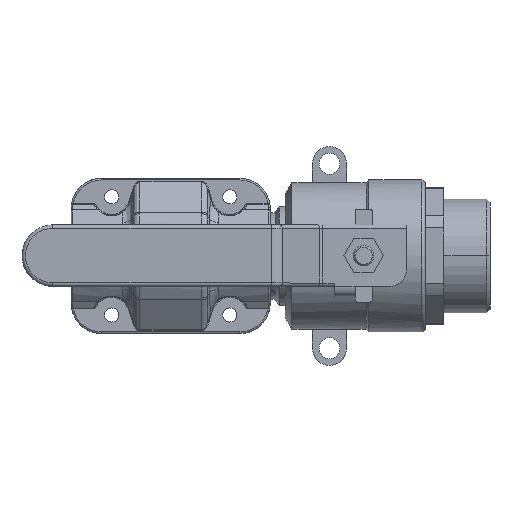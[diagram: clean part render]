
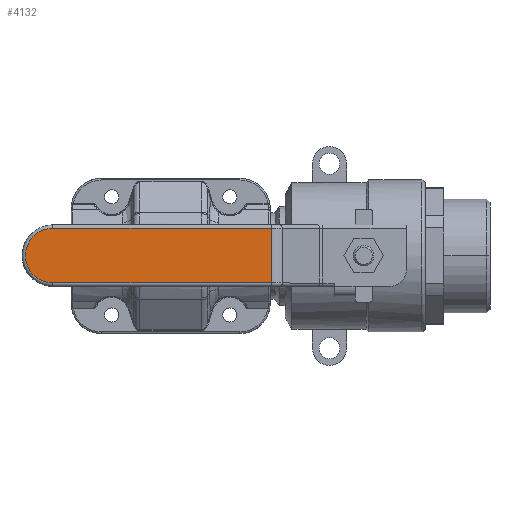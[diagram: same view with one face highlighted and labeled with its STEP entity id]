
A CAD part, top view. The second image highlights one B-rep face of the part: STEP entity #4132.
In plain terms, the highlighted planar face has unit normal (0, 0, 1).
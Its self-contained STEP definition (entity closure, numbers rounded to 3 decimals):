
#1053=DIRECTION('',(1.,0.,0.));
#1054=VECTOR('',#1053,64.789);
#1055=CARTESIAN_POINT('',(-36.429,8.095,57.982));
#1056=LINE('',#1055,#1054);
#1060=DIRECTION('',(0.,1.,0.));
#1061=VECTOR('',#1060,16.19);
#1062=CARTESIAN_POINT('',(28.36,-8.095,57.982));
#1063=LINE('',#1062,#1061);
#1067=DIRECTION('',(-1.,0.,0.));
#1068=VECTOR('',#1067,64.789);
#1069=CARTESIAN_POINT('',(28.36,-8.095,57.982));
#1070=LINE('',#1069,#1068);
#1074=CARTESIAN_POINT('',(-36.429,0.,57.982));
#1075=DIRECTION('',(0.,0.,-1.));
#1076=DIRECTION('',(0.,-1.,0.));
#1077=AXIS2_PLACEMENT_3D('',#1074,#1075,#1076);
#3156=CARTESIAN_POINT('',(28.36,8.095,57.982));
#3157=VERTEX_POINT('',#3156);
#3160=CARTESIAN_POINT('',(-36.429,8.095,57.982));
#3161=VERTEX_POINT('',#3160);
#3164=CARTESIAN_POINT('',(-36.429,-8.095,57.982));
#3165=VERTEX_POINT('',#3164);
#3168=CARTESIAN_POINT('',(28.36,-8.095,57.982));
#3169=VERTEX_POINT('',#3168);
#4120=CARTESIAN_POINT('',(30.357,9.107,57.982));
#4121=DIRECTION('',(0.,0.,1.));
#4122=DIRECTION('',(-1.,0.,0.));
#4123=AXIS2_PLACEMENT_3D('',#4120,#4121,#4122);
#4124=PLANE('',#4123);
#4125=ORIENTED_EDGE('',*,*,#4033,.T.);
#4127=ORIENTED_EDGE('',*,*,#4126,.F.);
#4128=ORIENTED_EDGE('',*,*,#4114,.T.);
#4129=ORIENTED_EDGE('',*,*,#4018,.T.);
#4130=EDGE_LOOP('',(#4125,#4127,#4128,#4129));
#4131=FACE_OUTER_BOUND('',#4130,.F.);
#1078=CIRCLE('',#1077,8.095);
#4018=EDGE_CURVE('',#3165,#3161,#1078,.T.);
#4033=EDGE_CURVE('',#3161,#3157,#1056,.T.);
#4114=EDGE_CURVE('',#3169,#3165,#1070,.T.);
#4126=EDGE_CURVE('',#3169,#3157,#1063,.T.);
#4132=ADVANCED_FACE('',(#4131),#4124,.T.);
